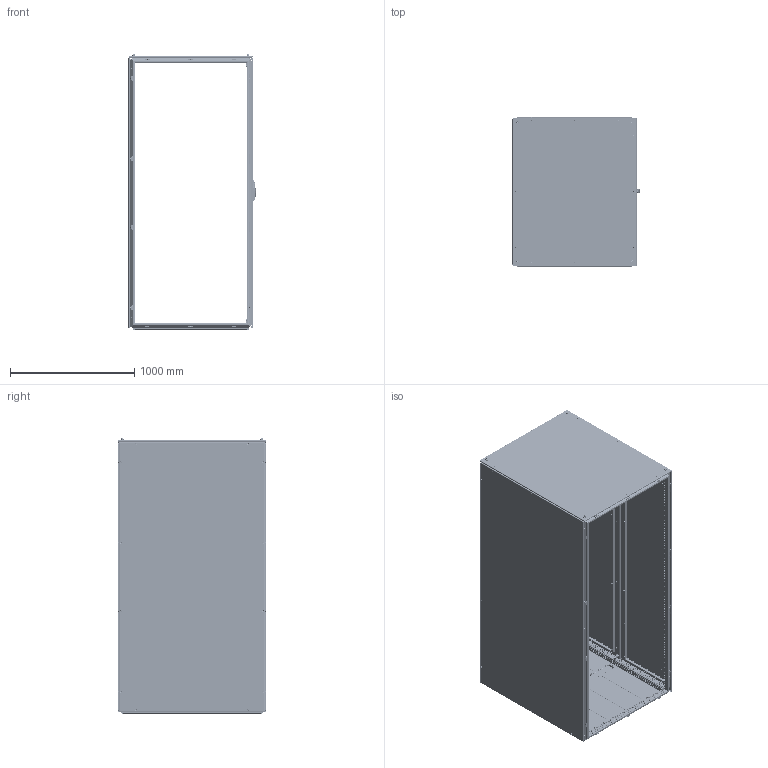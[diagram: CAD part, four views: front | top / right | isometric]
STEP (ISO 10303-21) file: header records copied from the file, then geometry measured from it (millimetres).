
FILE_DESCRIPTION(('STEP AP203'), '1');
FILE_NAME('ØÍÑ ÊÑ PRO II Êîðïóñ ÑÁ', '', ('UNSPECIFIED'), ('UNSPECIFIED'), 'C3D Converter', 'C3D Toolkit', '');
FILE_SCHEMA(('CONFIG_CONTROL_DESIGN'));
Length unit declared in the file: millimetre
Products named in the file (56): 3210.220.120.100; 3000; 3007.175; 3007.75; 3007.200; 3006; 3009.04; 3009.04.01; 3009.04.2; 3009.04.01.2; 3301; 3310; 3311; 3302; 3211; 3409; 3415; 3425; 3426; 3422.01; 3412; 3411; 2952; 3009.05; 3009.05.01; 3622.01; 3417; 3427; 3010
Assembly tree (441 placements, depth 6):
  3210.220.120.100
    3000
      3000
      (unnamed)  x104
      3007.175  x2
      (unnamed)  x38
      3007.75  x2
      3007.200  x6
      3006
      3009.04  x12
        3009.04.01
        (unnamed)
        (unnamed)
      3009.04.2  x17
        3009.04.01.2
        (unnamed)
        (unnamed)
    3301
      3310
        3311
        (unnamed)
      (unnamed)  x12
      (unnamed)  x12
      (unnamed)  x4
      (unnamed)  x4
    3302
      3211
      (unnamed)  x2
      (unnamed)  x14
    3409
      3415
        3425
          3426
          3422.01  x4
          (unnamed)  x14
          (unnamed)  x8
          (unnamed)  x2
        3412  x2
        3411  x2
        (unnamed)  x4
        (unnamed)  x14
        (unnamed)  x22
        (unnamed)  x8
        2952
          (unnamed)
            (unnamed)
            (unnamed)
            (unnamed)
            (unnamed)
            (unnamed)
        (unnamed)  x2
        3009.05  x4
          3009.05.01
          (unnamed)
          (unnamed)
        3622.01  x4
        (unnamed)  x4
      3417
        3427
          3426
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Bounding box: 1023.93 x 1197 x 2216 mm (x, y, z)
Volume: 18945806.6 mm3; surface area: 24323244.8 mm2
Topology: 568 solids, 568 shells, 32504 faces, 89076 edges, 58474 vertices
Faces by surface type: plane 21460, cylinder 7815, cone 1809, bspline 787, torus 502, extrusion 90, sphere 41
Full cylindrical faces by diameter (mm): 0.5 x36, 2.6 x8, 3.71 x8, 4.134 x158, 4.3 x2, 4.5 x3038, 4.8 x40, 4.917 x36, 5 x218, 5.2 x1, 5.5 x12, 5.8 x54, 6 x81, 6.1 x8, 6.4 x8, 6.6 x36, 6.75 x36, 6.8 x216, 7 x112, 7.3 x36, 7.5 x106, 8 x144, 8.3 x16, 8.5 x13, 9.2 x90, 10 x51, 10.106 x8, 10.5 x10, 11.5 x14, 12 x48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
Entity records: 785955 total; most frequent: CARTESIAN_POINT 282881, ORIENTED_EDGE 96074, DIRECTION 89857, EDGE_CURVE 48037, VECTOR 37505, LINE 37460, VERTEX_POINT 33737, EDGE_LOOP 32204
